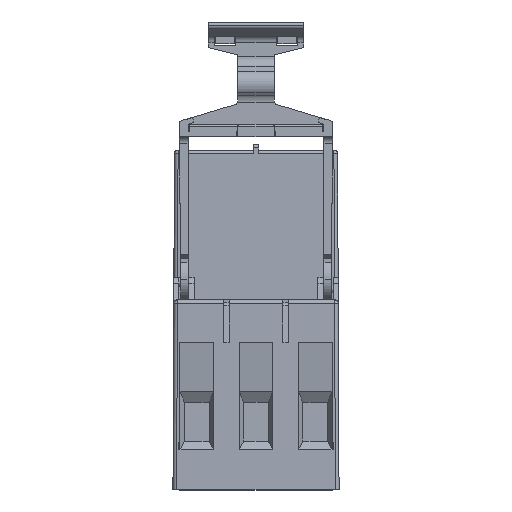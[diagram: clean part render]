
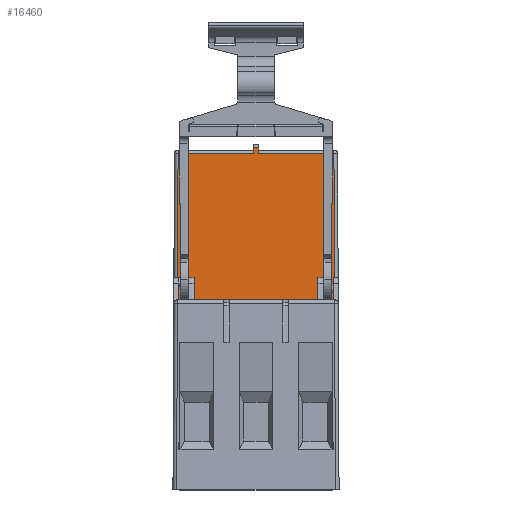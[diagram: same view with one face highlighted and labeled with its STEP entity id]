
A CAD part, front view. The second image highlights one B-rep face of the part: STEP entity #16460.
In plain terms, the highlighted planar face has unit normal (0, -1, 0.004).
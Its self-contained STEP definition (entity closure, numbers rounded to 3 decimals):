
#64 = LINE ( 'NONE', #31799, #16812 ) ;
#305 = VECTOR ( 'NONE', #12844, 1000. ) ;
#785 = LINE ( 'NONE', #21615, #3328 ) ;
#1701 = LINE ( 'NONE', #34727, #20733 ) ;
#3328 = VECTOR ( 'NONE', #36420, 1000. ) ;
#3746 = CARTESIAN_POINT ( 'NONE',  ( -11.25, 14.9, 4. ) ) ;
#3833 = ORIENTED_EDGE ( 'NONE', *, *, #16031, .T. ) ;
#4426 = AXIS2_PLACEMENT_3D ( 'NONE', #3746, #17294, #11481 ) ;
#5149 = EDGE_CURVE ( 'NONE', #23029, #23234, #19430, .T. ) ;
#5695 = VECTOR ( 'NONE', #9148, 1000. ) ;
#5974 = CARTESIAN_POINT ( 'NONE',  ( -0.4, 14.9, 4. ) ) ;
#7428 = DIRECTION ( 'NONE',  ( -1., 0., 0. ) ) ;
#7749 = VERTEX_POINT ( 'NONE', #27517 ) ;
#8992 = VERTEX_POINT ( 'NONE', #24270 ) ;
#9148 = DIRECTION ( 'NONE',  ( 0., -0.004, -1. ) ) ;
#9773 = DIRECTION ( 'NONE',  ( -0.004, 0.004, 1. ) ) ;
#9938 = ORIENTED_EDGE ( 'NONE', *, *, #5149, .T. ) ;
#9989 = EDGE_CURVE ( 'NONE', #35744, #8992, #785, .T. ) ;
#11409 = ORIENTED_EDGE ( 'NONE', *, *, #36530, .F. ) ;
#11481 = DIRECTION ( 'NONE',  ( 0., -0.004, -1. ) ) ;
#12264 = DIRECTION ( 'NONE',  ( -1., 0., 0. ) ) ;
#12723 = CARTESIAN_POINT ( 'NONE',  ( 10.663, 15.068, 42.502 ) ) ;
#12844 = DIRECTION ( 'NONE',  ( -0.004, -0.004, -1. ) ) ;
#13723 = CARTESIAN_POINT ( 'NONE',  ( -0.4, 15.068, 42.502 ) ) ;
#13979 = VERTEX_POINT ( 'NONE', #13723 ) ;
#14540 = LINE ( 'NONE', #5974, #5695 ) ;
#15163 = VECTOR ( 'NONE', #20938, 1000. ) ;
#15427 = CARTESIAN_POINT ( 'NONE',  ( 8.5, 14.981, 22.5 ) ) ;
#16010 = CARTESIAN_POINT ( 'NONE',  ( -10.75, 14.981, 22.5 ) ) ;
#16031 = EDGE_CURVE ( 'NONE', #32586, #23029, #37978, .T. ) ;
#16322 = DIRECTION ( 'NONE',  ( 1., 0., 0. ) ) ;
#16460 = ADVANCED_FACE ( 'NONE', ( #18946 ), #31161, .T. ) ;
#16812 = VECTOR ( 'NONE', #12264, 1000. ) ;
#17294 = DIRECTION ( 'NONE',  ( 0., -1., 0.004 ) ) ;
#18007 = VECTOR ( 'NONE', #33678, 1000. ) ;
#18018 = EDGE_CURVE ( 'NONE', #24881, #35744, #22050, .T. ) ;
#18467 = VECTOR ( 'NONE', #9773, 1000. ) ;
#18946 = FACE_OUTER_BOUND ( 'NONE', #32269, .T. ) ;
#19294 = ORIENTED_EDGE ( 'NONE', *, *, #18018, .T. ) ;
#19387 = EDGE_CURVE ( 'NONE', #36764, #32586, #1701, .T. ) ;
#19430 = LINE ( 'NONE', #25450, #29191 ) ;
#19558 = CARTESIAN_POINT ( 'NONE',  ( 10.83, 14.9, 4.096 ) ) ;
#20016 = CARTESIAN_POINT ( 'NONE',  ( 0.4, 15.071, 43.302 ) ) ;
#20313 = LINE ( 'NONE', #32538, #15163 ) ;
#20733 = VECTOR ( 'NONE', #16322, 1000. ) ;
#20897 = CARTESIAN_POINT ( 'NONE',  ( 0.4, 15.068, 42.502 ) ) ;
#20938 = DIRECTION ( 'NONE',  ( -1., 0., 0. ) ) ;
#20947 = ORIENTED_EDGE ( 'NONE', *, *, #9989, .T. ) ;
#21615 = CARTESIAN_POINT ( 'NONE',  ( -11.25, 14.981, 22.5 ) ) ;
#22003 = EDGE_CURVE ( 'NONE', #8992, #36764, #37588, .T. ) ;
#22050 = LINE ( 'NONE', #25057, #305 ) ;
#23025 = LINE ( 'NONE', #20016, #37691 ) ;
#23029 = VERTEX_POINT ( 'NONE', #12723 ) ;
#23234 = VERTEX_POINT ( 'NONE', #20897 ) ;
#23975 = CARTESIAN_POINT ( 'NONE',  ( 10.75, 14.981, 22.5 ) ) ;
#24270 = CARTESIAN_POINT ( 'NONE',  ( -8.5, 14.981, 22.5 ) ) ;
#24881 = VERTEX_POINT ( 'NONE', #32247 ) ;
#25057 = CARTESIAN_POINT ( 'NONE',  ( -10.831, 14.9, 3.998 ) ) ;
#25450 = CARTESIAN_POINT ( 'NONE',  ( -11.25, 15.068, 42.502 ) ) ;
#25989 = EDGE_CURVE ( 'NONE', #29293, #7749, #64, .T. ) ;
#27517 = CARTESIAN_POINT ( 'NONE',  ( -0.4, 15.071, 43.302 ) ) ;
#27981 = ORIENTED_EDGE ( 'NONE', *, *, #22003, .T. ) ;
#29081 = EDGE_CURVE ( 'NONE', #13979, #24881, #20313, .T. ) ;
#29191 = VECTOR ( 'NONE', #7428, 1000. ) ;
#29293 = VERTEX_POINT ( 'NONE', #31325 ) ;
#29376 = ORIENTED_EDGE ( 'NONE', *, *, #25989, .T. ) ;
#30476 = CARTESIAN_POINT ( 'NONE',  ( -11.25, 14.981, 22.5 ) ) ;
#30726 = EDGE_CURVE ( 'NONE', #7749, #13979, #14540, .T. ) ;
#31104 = ORIENTED_EDGE ( 'NONE', *, *, #30726, .T. ) ;
#31161 = PLANE ( 'NONE',  #4426 ) ;
#31325 = CARTESIAN_POINT ( 'NONE',  ( 0.4, 15.071, 43.302 ) ) ;
#31799 = CARTESIAN_POINT ( 'NONE',  ( -11.25, 15.071, 43.302 ) ) ;
#32246 = DIRECTION ( 'NONE',  ( 0., -0.004, -1. ) ) ;
#32247 = CARTESIAN_POINT ( 'NONE',  ( -10.663, 15.068, 42.502 ) ) ;
#32269 = EDGE_LOOP ( 'NONE', ( #35082, #19294, #20947, #27981, #38886, #3833, #9938, #11409, #29376, #31104 ) ) ;
#32538 = CARTESIAN_POINT ( 'NONE',  ( -11.25, 15.068, 42.502 ) ) ;
#32586 = VERTEX_POINT ( 'NONE', #23975 ) ;
#33678 = DIRECTION ( 'NONE',  ( 1., 0., 0. ) ) ;
#34727 = CARTESIAN_POINT ( 'NONE',  ( -11.25, 14.981, 22.5 ) ) ;
#35082 = ORIENTED_EDGE ( 'NONE', *, *, #29081, .T. ) ;
#35744 = VERTEX_POINT ( 'NONE', #16010 ) ;
#36420 = DIRECTION ( 'NONE',  ( 1., 0., 0. ) ) ;
#36530 = EDGE_CURVE ( 'NONE', #29293, #23234, #23025, .T. ) ;
#36764 = VERTEX_POINT ( 'NONE', #15427 ) ;
#37588 = LINE ( 'NONE', #30476, #18007 ) ;
#37691 = VECTOR ( 'NONE', #32246, 1000. ) ;
#37978 = LINE ( 'NONE', #19558, #18467 ) ;
#38886 = ORIENTED_EDGE ( 'NONE', *, *, #19387, .T. ) ;
